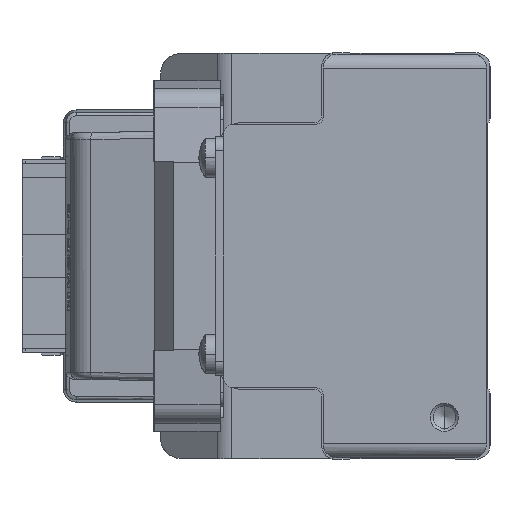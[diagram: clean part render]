
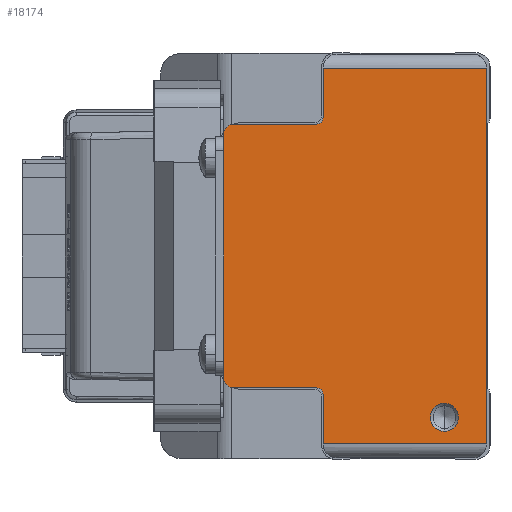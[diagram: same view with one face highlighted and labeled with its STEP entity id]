
A CAD part, left-side view. The second image highlights one B-rep face of the part: STEP entity #18174.
In plain terms, the highlighted planar face has unit normal (-1, 0, 0) as drawn and (0, 0, 1) by its records, which use the part's own axes.
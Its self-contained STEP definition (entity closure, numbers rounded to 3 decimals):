
#142 = EDGE_CURVE ( 'NONE', #34824, #11396, #40039, .T. ) ;
#909 = PLANE ( 'NONE',  #14483 ) ;
#1496 = CARTESIAN_POINT ( 'NONE',  ( 26.8, 23.8, 620. ) ) ;
#1500 = AXIS2_PLACEMENT_3D ( 'NONE', #25616, #38048, #32457 ) ;
#1589 = EDGE_CURVE ( 'NONE', #28024, #40089, #20068, .T. ) ;
#1697 = VERTEX_POINT ( 'NONE', #12824 ) ;
#2236 = ORIENTED_EDGE ( 'NONE', *, *, #18024, .F. ) ;
#2512 = DIRECTION ( 'NONE',  ( 0., 0., 1. ) ) ;
#2924 = FACE_BOUND ( 'NONE', #39844, .T. ) ;
#3119 = DIRECTION ( 'NONE',  ( 0., 0., 1. ) ) ;
#4226 = VECTOR ( 'NONE', #40457, 1000. ) ;
#5265 = CARTESIAN_POINT ( 'NONE',  ( -26.8, 0.5, 620. ) ) ;
#5775 = LINE ( 'NONE', #39513, #20671 ) ;
#6008 = DIRECTION ( 'NONE',  ( 0., -1., 0. ) ) ;
#6232 = CARTESIAN_POINT ( 'NONE',  ( -21., 6.5, 620. ) ) ;
#6270 = CARTESIAN_POINT ( 'NONE',  ( 19.8, 23.8, 620. ) ) ;
#6568 = CARTESIAN_POINT ( 'NONE',  ( 18.8, 24.8, 620. ) ) ;
#6655 = VECTOR ( 'NONE', #23190, 1000. ) ;
#6993 = EDGE_CURVE ( 'NONE', #23341, #20295, #17404, .T. ) ;
#7585 = CARTESIAN_POINT ( 'NONE',  ( -19.8, 24.8, 620. ) ) ;
#9436 = DIRECTION ( 'NONE',  ( 1., 0., 0. ) ) ;
#9635 = LINE ( 'NONE', #23645, #6655 ) ;
#10025 = CARTESIAN_POINT ( 'NONE',  ( -17.3, 38., 620. ) ) ;
#10802 = AXIS2_PLACEMENT_3D ( 'NONE', #7585, #3119, #16749 ) ;
#11261 = LINE ( 'NONE', #42100, #28423 ) ;
#11396 = VERTEX_POINT ( 'NONE', #33131 ) ;
#12083 = CARTESIAN_POINT ( 'NONE',  ( 26.8, 23.8, 620. ) ) ;
#12824 = CARTESIAN_POINT ( 'NONE',  ( 18.8, 24.8, 620. ) ) ;
#12941 = ORIENTED_EDGE ( 'NONE', *, *, #39251, .F. ) ;
#13612 = CARTESIAN_POINT ( 'NONE',  ( 19.8, 24.8, 620. ) ) ;
#13871 = VECTOR ( 'NONE', #20128, 1000. ) ;
#14351 = CIRCLE ( 'NONE', #1500, 2. ) ;
#14403 = EDGE_CURVE ( 'NONE', #20295, #35874, #11261, .T. ) ;
#14483 = AXIS2_PLACEMENT_3D ( 'NONE', #16999, #37581, #37799 ) ;
#14597 = DIRECTION ( 'NONE',  ( 1., 0., 0. ) ) ;
#15581 = EDGE_CURVE ( 'NONE', #21834, #41884, #5775, .T. ) ;
#15835 = CIRCLE ( 'NONE', #37066, 1. ) ;
#15870 = EDGE_CURVE ( 'NONE', #31906, #40201, #32198, .T. ) ;
#16025 = ORIENTED_EDGE ( 'NONE', *, *, #14403, .T. ) ;
#16584 = LINE ( 'NONE', #6568, #13871 ) ;
#16749 = DIRECTION ( 'NONE',  ( 1., 0., 0. ) ) ;
#16999 = CARTESIAN_POINT ( 'NONE',  ( -26.8, 21.8, 620. ) ) ;
#17392 = LINE ( 'NONE', #17622, #22977 ) ;
#17404 = LINE ( 'NONE', #34878, #22656 ) ;
#17622 = CARTESIAN_POINT ( 'NONE',  ( -26.8, 0.5, 620. ) ) ;
#17943 = CIRCLE ( 'NONE', #10802, 1. ) ;
#18024 = EDGE_CURVE ( 'NONE', #31906, #30485, #9635, .T. ) ;
#18174 = ADVANCED_FACE ( 'NONE', ( #2924, #26809 ), #909, .T. ) ;
#18899 = CIRCLE ( 'NONE', #30986, 1.5 ) ;
#19689 = EDGE_CURVE ( 'NONE', #43193, #28024, #29339, .T. ) ;
#20068 = LINE ( 'NONE', #33598, #4226 ) ;
#20128 = DIRECTION ( 'NONE',  ( 0., 1., 0. ) ) ;
#20295 = VERTEX_POINT ( 'NONE', #25654 ) ;
#20641 = ORIENTED_EDGE ( 'NONE', *, *, #32167, .F. ) ;
#20671 = VECTOR ( 'NONE', #6008, 1000. ) ;
#21834 = VERTEX_POINT ( 'NONE', #31969 ) ;
#22066 = ORIENTED_EDGE ( 'NONE', *, *, #25381, .T. ) ;
#22527 = EDGE_CURVE ( 'NONE', #11396, #34824, #14351, .T. ) ;
#22656 = VECTOR ( 'NONE', #27848, 1000. ) ;
#22977 = VECTOR ( 'NONE', #30916, 1000. ) ;
#23190 = DIRECTION ( 'NONE',  ( 0., -1., 0. ) ) ;
#23341 = VERTEX_POINT ( 'NONE', #43023 ) ;
#23473 = ORIENTED_EDGE ( 'NONE', *, *, #41429, .T. ) ;
#23645 = CARTESIAN_POINT ( 'NONE',  ( 26.8, 24., 620. ) ) ;
#23971 = ORIENTED_EDGE ( 'NONE', *, *, #6993, .T. ) ;
#24414 = ORIENTED_EDGE ( 'NONE', *, *, #19689, .T. ) ;
#24782 = ORIENTED_EDGE ( 'NONE', *, *, #142, .T. ) ;
#24832 = CARTESIAN_POINT ( 'NONE',  ( 17.3, 36.5, 620. ) ) ;
#25381 = EDGE_CURVE ( 'NONE', #35874, #30485, #17392, .T. ) ;
#25616 = CARTESIAN_POINT ( 'NONE',  ( -23., 6.5, 620. ) ) ;
#25654 = CARTESIAN_POINT ( 'NONE',  ( -26.8, 23.8, 620. ) ) ;
#25815 = AXIS2_PLACEMENT_3D ( 'NONE', #24832, #39539, #14597 ) ;
#26306 = ORIENTED_EDGE ( 'NONE', *, *, #1589, .T. ) ;
#26809 = FACE_OUTER_BOUND ( 'NONE', #37756, .T. ) ;
#27285 = CARTESIAN_POINT ( 'NONE',  ( 26.8, 0.5, 620. ) ) ;
#27589 = ORIENTED_EDGE ( 'NONE', *, *, #15581, .T. ) ;
#27835 = EDGE_CURVE ( 'NONE', #1697, #43193, #16584, .T. ) ;
#27848 = DIRECTION ( 'NONE',  ( -1., 0., 0. ) ) ;
#28024 = VERTEX_POINT ( 'NONE', #33820 ) ;
#28165 = CARTESIAN_POINT ( 'NONE',  ( -23., 6.5, 620. ) ) ;
#28423 = VECTOR ( 'NONE', #41659, 1000. ) ;
#29339 = CIRCLE ( 'NONE', #25815, 1.5 ) ;
#29856 = ORIENTED_EDGE ( 'NONE', *, *, #22527, .T. ) ;
#30485 = VERTEX_POINT ( 'NONE', #27285 ) ;
#30916 = DIRECTION ( 'NONE',  ( 1., 0., 0. ) ) ;
#30986 = AXIS2_PLACEMENT_3D ( 'NONE', #43201, #2512, #9436 ) ;
#31541 = DIRECTION ( 'NONE',  ( -1., 0., 0. ) ) ;
#31906 = VERTEX_POINT ( 'NONE', #12083 ) ;
#31969 = CARTESIAN_POINT ( 'NONE',  ( -18.8, 36.5, 620. ) ) ;
#32059 = VECTOR ( 'NONE', #31541, 1000. ) ;
#32167 = EDGE_CURVE ( 'NONE', #23341, #41884, #17943, .T. ) ;
#32198 = LINE ( 'NONE', #1496, #32059 ) ;
#32457 = DIRECTION ( 'NONE',  ( -1., 0., 0. ) ) ;
#32698 = DIRECTION ( 'NONE',  ( 0., 0., -1. ) ) ;
#33131 = CARTESIAN_POINT ( 'NONE',  ( -25., 6.5, 620. ) ) ;
#33598 = CARTESIAN_POINT ( 'NONE',  ( 17.3, 38., 620. ) ) ;
#33652 = AXIS2_PLACEMENT_3D ( 'NONE', #28165, #32698, #36231 ) ;
#33820 = CARTESIAN_POINT ( 'NONE',  ( 17.3, 38., 620. ) ) ;
#34824 = VERTEX_POINT ( 'NONE', #6232 ) ;
#34878 = CARTESIAN_POINT ( 'NONE',  ( -19.8, 23.8, 620. ) ) ;
#34887 = CARTESIAN_POINT ( 'NONE',  ( -18.8, 24.8, 620. ) ) ;
#35874 = VERTEX_POINT ( 'NONE', #5265 ) ;
#36231 = DIRECTION ( 'NONE',  ( -1., 0., 0. ) ) ;
#36654 = DIRECTION ( 'NONE',  ( 0., 0., 1. ) ) ;
#37066 = AXIS2_PLACEMENT_3D ( 'NONE', #13612, #36654, #37308 ) ;
#37308 = DIRECTION ( 'NONE',  ( 1., 0., 0. ) ) ;
#37463 = CARTESIAN_POINT ( 'NONE',  ( 18.8, 36.5, 620. ) ) ;
#37581 = DIRECTION ( 'NONE',  ( 0., 0., 1. ) ) ;
#37756 = EDGE_LOOP ( 'NONE', ( #27589, #20641, #23971, #16025, #22066, #2236, #43194, #12941, #41634, #24414, #26306, #23473 ) ) ;
#37799 = DIRECTION ( 'NONE',  ( 1., 0., 0. ) ) ;
#38048 = DIRECTION ( 'NONE',  ( 0., 0., -1. ) ) ;
#39251 = EDGE_CURVE ( 'NONE', #1697, #40201, #15835, .T. ) ;
#39513 = CARTESIAN_POINT ( 'NONE',  ( -18.8, 36.5, 620. ) ) ;
#39539 = DIRECTION ( 'NONE',  ( 0., 0., 1. ) ) ;
#39844 = EDGE_LOOP ( 'NONE', ( #29856, #24782 ) ) ;
#40039 = CIRCLE ( 'NONE', #33652, 2. ) ;
#40089 = VERTEX_POINT ( 'NONE', #10025 ) ;
#40201 = VERTEX_POINT ( 'NONE', #6270 ) ;
#40457 = DIRECTION ( 'NONE',  ( -1., 0., 0. ) ) ;
#41429 = EDGE_CURVE ( 'NONE', #40089, #21834, #18899, .T. ) ;
#41634 = ORIENTED_EDGE ( 'NONE', *, *, #27835, .T. ) ;
#41659 = DIRECTION ( 'NONE',  ( 0., -1., 0. ) ) ;
#41884 = VERTEX_POINT ( 'NONE', #34887 ) ;
#42100 = CARTESIAN_POINT ( 'NONE',  ( -26.8, 24., 620. ) ) ;
#43023 = CARTESIAN_POINT ( 'NONE',  ( -19.8, 23.8, 620. ) ) ;
#43193 = VERTEX_POINT ( 'NONE', #37463 ) ;
#43194 = ORIENTED_EDGE ( 'NONE', *, *, #15870, .T. ) ;
#43201 = CARTESIAN_POINT ( 'NONE',  ( -17.3, 36.5, 620. ) ) ;
